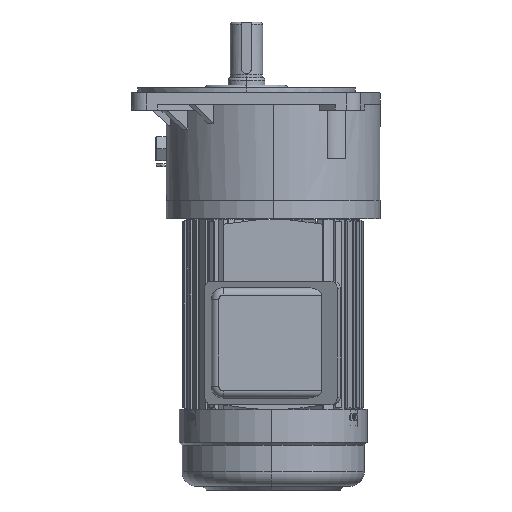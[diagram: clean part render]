
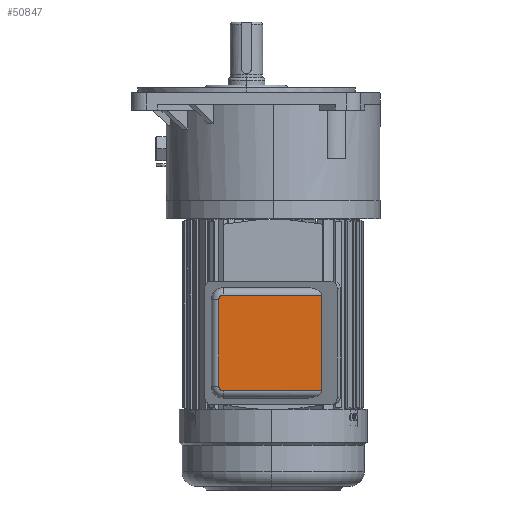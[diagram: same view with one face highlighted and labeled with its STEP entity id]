
A CAD part, left-side view. The second image highlights one B-rep face of the part: STEP entity #50847.
In plain terms, the highlighted planar face has unit normal (-1, 0, 0).
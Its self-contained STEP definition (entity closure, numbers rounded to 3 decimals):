
#617 = CARTESIAN_POINT ( 'NONE',  ( -80.049, -14.296, -1.866 ) ) ;
#641 = VECTOR ( 'NONE', #51640, 1000. ) ;
#1651 = DIRECTION ( 'NONE',  ( -1., 0., 0. ) ) ;
#2388 = ORIENTED_EDGE ( 'NONE', *, *, #50960, .T. ) ;
#4141 = AXIS2_PLACEMENT_3D ( 'NONE', #37759, #13815, #41804 ) ;
#5913 = VERTEX_POINT ( 'NONE', #34412 ) ;
#7146 = VERTEX_POINT ( 'NONE', #10865 ) ;
#8629 = CARTESIAN_POINT ( 'NONE',  ( -80.049, -17.296, 57.134 ) ) ;
#9905 = LINE ( 'NONE', #36056, #39334 ) ;
#10865 = CARTESIAN_POINT ( 'NONE',  ( -80.049, -17.296, -4.866 ) ) ;
#11888 = ORIENTED_EDGE ( 'NONE', *, *, #43028, .T. ) ;
#12643 = DIRECTION ( 'NONE',  ( 0., 1., 0. ) ) ;
#12655 = DIRECTION ( 'NONE',  ( 0., 0., -1. ) ) ;
#12767 = VECTOR ( 'NONE', #12643, 1000. ) ;
#13372 = VERTEX_POINT ( 'NONE', #42468 ) ;
#13815 = DIRECTION ( 'NONE',  ( 1., 0., 0. ) ) ;
#14306 = EDGE_CURVE ( 'NONE', #13372, #5913, #21949, .T. ) ;
#16011 = LINE ( 'NONE', #46372, #46701 ) ;
#16723 = EDGE_CURVE ( 'NONE', #36543, #7146, #31305, .T. ) ;
#16809 = ORIENTED_EDGE ( 'NONE', *, *, #14306, .T. ) ;
#17228 = ORIENTED_EDGE ( 'NONE', *, *, #16723, .T. ) ;
#17637 = EDGE_CURVE ( 'NONE', #25282, #36543, #9905, .T. ) ;
#19996 = DIRECTION ( 'NONE',  ( 0., 0., -1. ) ) ;
#21306 = ORIENTED_EDGE ( 'NONE', *, *, #17637, .T. ) ;
#21520 = ORIENTED_EDGE ( 'NONE', *, *, #44781, .T. ) ;
#21949 = LINE ( 'NONE', #47686, #641 ) ;
#24046 = VERTEX_POINT ( 'NONE', #50849 ) ;
#25282 = VERTEX_POINT ( 'NONE', #35775 ) ;
#25593 = EDGE_LOOP ( 'NONE', ( #16809, #11888, #21520, #21306, #17228, #2388 ) ) ;
#25636 = CARTESIAN_POINT ( 'NONE',  ( -80.049, -17.296, -1.866 ) ) ;
#25737 = PLANE ( 'NONE',  #4141 ) ;
#27953 = FACE_OUTER_BOUND ( 'NONE', #25593, .T. ) ;
#28392 = CIRCLE ( 'NONE', #35219, 3. ) ;
#29664 = DIRECTION ( 'NONE',  ( 0., 0., -1. ) ) ;
#31305 = CIRCLE ( 'NONE', #47070, 3. ) ;
#34412 = CARTESIAN_POINT ( 'NONE',  ( -80.049, -84.186, 60.134 ) ) ;
#35219 = AXIS2_PLACEMENT_3D ( 'NONE', #8629, #36624, #12655 ) ;
#35775 = CARTESIAN_POINT ( 'NONE',  ( -80.049, -14.296, 57.134 ) ) ;
#36056 = CARTESIAN_POINT ( 'NONE',  ( -80.049, -14.296, -1.866 ) ) ;
#36543 = VERTEX_POINT ( 'NONE', #617 ) ;
#36607 = CARTESIAN_POINT ( 'NONE',  ( -80.049, -80.296, 60.134 ) ) ;
#36624 = DIRECTION ( 'NONE',  ( -1., 0., 0. ) ) ;
#37759 = CARTESIAN_POINT ( 'NONE',  ( -80.049, -80.296, -1.866 ) ) ;
#39334 = VECTOR ( 'NONE', #19996, 1000. ) ;
#41804 = DIRECTION ( 'NONE',  ( 0., 0., -1. ) ) ;
#42468 = CARTESIAN_POINT ( 'NONE',  ( -80.049, -84.186, -4.866 ) ) ;
#43028 = EDGE_CURVE ( 'NONE', #5913, #24046, #43490, .T. ) ;
#43490 = LINE ( 'NONE', #36607, #12767 ) ;
#44781 = EDGE_CURVE ( 'NONE', #24046, #25282, #28392, .T. ) ;
#46372 = CARTESIAN_POINT ( 'NONE',  ( -80.049, -80.296, -4.866 ) ) ;
#46701 = VECTOR ( 'NONE', #50337, 1000. ) ;
#47070 = AXIS2_PLACEMENT_3D ( 'NONE', #25636, #1651, #29664 ) ;
#47686 = CARTESIAN_POINT ( 'NONE',  ( -80.049, -84.186, -1.866 ) ) ;
#50337 = DIRECTION ( 'NONE',  ( 0., -1., 0. ) ) ;
#50847 = ADVANCED_FACE ( 'NONE', ( #27953 ), #25737, .F. ) ;
#50849 = CARTESIAN_POINT ( 'NONE',  ( -80.049, -17.296, 60.134 ) ) ;
#50960 = EDGE_CURVE ( 'NONE', #7146, #13372, #16011, .T. ) ;
#51640 = DIRECTION ( 'NONE',  ( 0., 0., 1. ) ) ;
